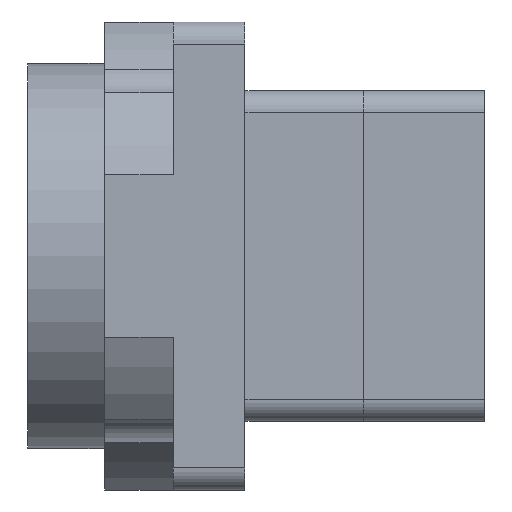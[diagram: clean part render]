
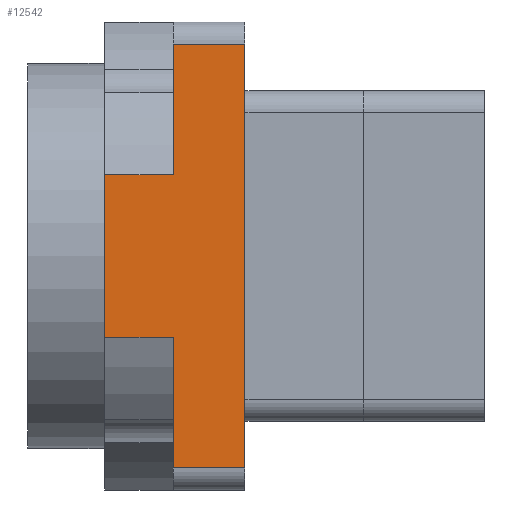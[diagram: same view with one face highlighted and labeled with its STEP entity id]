
A CAD part, left-side view. The second image highlights one B-rep face of the part: STEP entity #12542.
In plain terms, the highlighted planar face has unit normal (-1, 0, 0).
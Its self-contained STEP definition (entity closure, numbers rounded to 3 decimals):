
#578 = PLANE ( 'NONE',  #12198 ) ;
#584 = CARTESIAN_POINT ( 'NONE',  ( -42.5, 13., -38.5 ) ) ;
#596 = DIRECTION ( 'NONE',  ( 1., 0., 0. ) ) ;
#617 = DIRECTION ( 'NONE',  ( 0., 0., -1. ) ) ;
#1599 = EDGE_CURVE ( 'NONE', #14615, #14637, #5340, .T. ) ;
#1605 = EDGE_CURVE ( 'NONE', #14629, #14628, #11237, .T. ) ;
#1615 = EDGE_CURVE ( 'NONE', #14638, #14615, #11209, .T. ) ;
#1631 = EDGE_CURVE ( 'NONE', #14628, #14638, #11279, .T. ) ;
#1662 = EDGE_CURVE ( 'NONE', #14612, #14629, #11314, .T. ) ;
#1664 = EDGE_CURVE ( 'NONE', #14665, #14612, #11283, .T. ) ;
#1676 = EDGE_CURVE ( 'NONE', #14637, #14600, #11287, .T. ) ;
#1726 = EDGE_CURVE ( 'NONE', #14600, #14665, #10911, .T. ) ;
#3963 = CARTESIAN_POINT ( 'NONE',  ( -42.5, 0., -38.5 ) ) ;
#4383 = CARTESIAN_POINT ( 'NONE',  ( -42.5, 0., 38.5 ) ) ;
#4416 = CARTESIAN_POINT ( 'NONE',  ( -42.5, 13., -38.5 ) ) ;
#4429 = CARTESIAN_POINT ( 'NONE',  ( -42.5, 13., 14.79 ) ) ;
#4441 = CARTESIAN_POINT ( 'NONE',  ( -42.5, 13., 38.5 ) ) ;
#4447 = CARTESIAN_POINT ( 'NONE',  ( -42.5, 13., -14.79 ) ) ;
#4448 = CARTESIAN_POINT ( 'NONE',  ( -42.5, 25.5, -14.79 ) ) ;
#4450 = CARTESIAN_POINT ( 'NONE',  ( -42.5, 25.5, 14.79 ) ) ;
#5330 = CARTESIAN_POINT ( 'NONE',  ( -42.5, 13., -38.5 ) ) ;
#5340 = LINE ( 'NONE', #5330, #5366 ) ;
#5361 = DIRECTION ( 'NONE',  ( 0., 0., 1. ) ) ;
#5366 = VECTOR ( 'NONE', #5361, 1000. ) ;
#5369 = DIRECTION ( 'NONE',  ( 0., 1., 0. ) ) ;
#5373 = CARTESIAN_POINT ( 'NONE',  ( -42.5, 13., -14.79 ) ) ;
#5455 = DIRECTION ( 'NONE',  ( 0., -1., 0. ) ) ;
#5468 = CARTESIAN_POINT ( 'NONE',  ( -42.5, 13., 14.79 ) ) ;
#5493 = CARTESIAN_POINT ( 'NONE',  ( -42.5, 25.5, -38.5 ) ) ;
#5534 = DIRECTION ( 'NONE',  ( 0., 0., 1. ) ) ;
#5559 = ORIENTED_EDGE ( 'NONE', *, *, #1605, .F. ) ;
#5570 = ORIENTED_EDGE ( 'NONE', *, *, #1662, .F. ) ;
#5667 = ORIENTED_EDGE ( 'NONE', *, *, #1615, .F. ) ;
#5670 = ORIENTED_EDGE ( 'NONE', *, *, #1676, .F. ) ;
#5678 = ORIENTED_EDGE ( 'NONE', *, *, #1631, .F. ) ;
#5680 = ORIENTED_EDGE ( 'NONE', *, *, #1599, .F. ) ;
#5696 = ORIENTED_EDGE ( 'NONE', *, *, #1726, .F. ) ;
#5704 = ORIENTED_EDGE ( 'NONE', *, *, #1664, .F. ) ;
#5705 = DIRECTION ( 'NONE',  ( 0., 1., 0. ) ) ;
#5714 = CARTESIAN_POINT ( 'NONE',  ( -42.5, 13., -38.5 ) ) ;
#5727 = DIRECTION ( 'NONE',  ( 0., 0., 1. ) ) ;
#5736 = CARTESIAN_POINT ( 'NONE',  ( -42.5, 13., -38.5 ) ) ;
#5760 = CARTESIAN_POINT ( 'NONE',  ( -42.5, 13., 38.5 ) ) ;
#5860 = DIRECTION ( 'NONE',  ( 0., -1., 0. ) ) ;
#6027 = CARTESIAN_POINT ( 'NONE',  ( -42.5, 0., 30. ) ) ;
#6031 = DIRECTION ( 'NONE',  ( 0., 0., -1. ) ) ;
#6650 = EDGE_LOOP ( 'NONE', ( #5670, #5680, #5667, #5678, #5559, #5570, #5704, #5696 ) ) ;
#10911 = LINE ( 'NONE', #6027, #10914 ) ;
#10914 = VECTOR ( 'NONE', #6031, 1000. ) ;
#11209 = LINE ( 'NONE', #5468, #11219 ) ;
#11210 = VECTOR ( 'NONE', #5369, 1000. ) ;
#11219 = VECTOR ( 'NONE', #5455, 1000. ) ;
#11237 = LINE ( 'NONE', #5373, #11210 ) ;
#11246 = VECTOR ( 'NONE', #5534, 1000. ) ;
#11279 = LINE ( 'NONE', #5493, #11246 ) ;
#11283 = LINE ( 'NONE', #5736, #11312 ) ;
#11286 = VECTOR ( 'NONE', #5727, 1000. ) ;
#11287 = LINE ( 'NONE', #5760, #11308 ) ;
#11308 = VECTOR ( 'NONE', #5860, 1000. ) ;
#11312 = VECTOR ( 'NONE', #5705, 1000. ) ;
#11314 = LINE ( 'NONE', #5714, #11286 ) ;
#12198 = AXIS2_PLACEMENT_3D ( 'NONE', #584, #596, #617 ) ;
#12542 = ADVANCED_FACE ( 'NONE', ( #19746 ), #578, .F. ) ;
#14600 = VERTEX_POINT ( 'NONE', #4383 ) ;
#14612 = VERTEX_POINT ( 'NONE', #4416 ) ;
#14615 = VERTEX_POINT ( 'NONE', #4429 ) ;
#14628 = VERTEX_POINT ( 'NONE', #4448 ) ;
#14629 = VERTEX_POINT ( 'NONE', #4447 ) ;
#14637 = VERTEX_POINT ( 'NONE', #4441 ) ;
#14638 = VERTEX_POINT ( 'NONE', #4450 ) ;
#14665 = VERTEX_POINT ( 'NONE', #3963 ) ;
#19746 = FACE_OUTER_BOUND ( 'NONE', #6650, .T. ) ;
